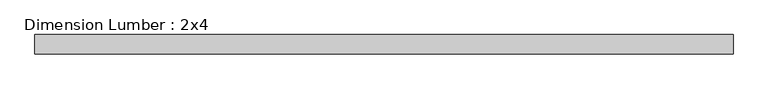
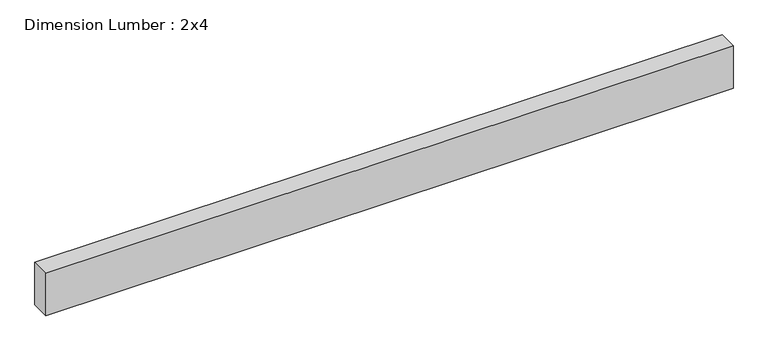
"""IFC4 building model written with IfcOpenShell, lengths in millimetres: beam geometry, Dimension Lumber : 2x4."""

from ifc_helpers import new_model, si_unit, frame, origin, place, context, project, spatial, polyline, outline, extrude, source, transform, mapped, element, save


def dimension_lumber_2x4_5fd0c0f3(model_context):
    return source(origin(), model_context, "Body", "SweptSolid", [
        extrude(outline(polyline([(682.9985294, 19.05), (682.9985294, -19.05), (-682.9985294, -19.05), (-682.9985294, 19.05), (682.9985294, 19.05)])), frame((0.0, 0.0, -44.45), z_axis=(0.0, 0.0, 1.0), x_axis=(1.0, 0.0, 0.0)), (0.0, 0.0, 1.0), 88.9),
    ])


if __name__ == "__main__":
    model = new_model("IFC4")
    model_context = context("Model", 3, world=origin())
    ifc_project = project(units=[si_unit("LENGTHUNIT", "METRE", prefix="MILLI")], contexts=[model_context])
    site = spatial("IfcSite", under=ifc_project)
    building = spatial("IfcBuilding", under=site)
    placement = place(None, origin())
    dimension_lumber_2x4_shape = dimension_lumber_2x4_5fd0c0f3(model_context)
    element("IfcBeam", 1, ObjectType="Dimension Lumber : 2x4", at=placement, inside=building, context=model_context, shape_type="MappedRepresentation", body=[
        mapped(dimension_lumber_2x4_shape, transform((0.0, 0.0, 0.0), x_axis=(1.0, 0.0, 0.0), y_axis=(0.0, 1.0, 0.0), z_axis=(0.0, 0.0, 1.0))),
    ])
    save(model, "model.ifc")
